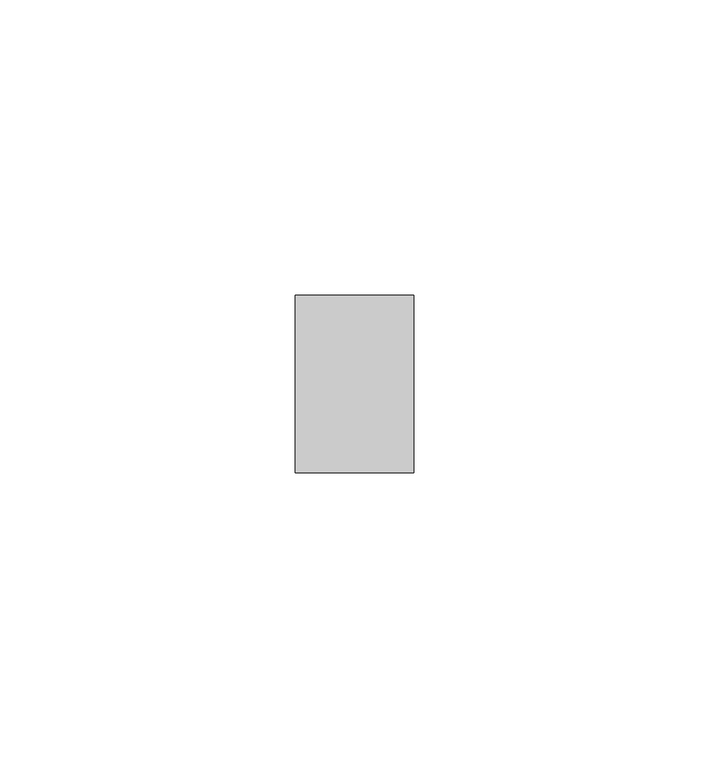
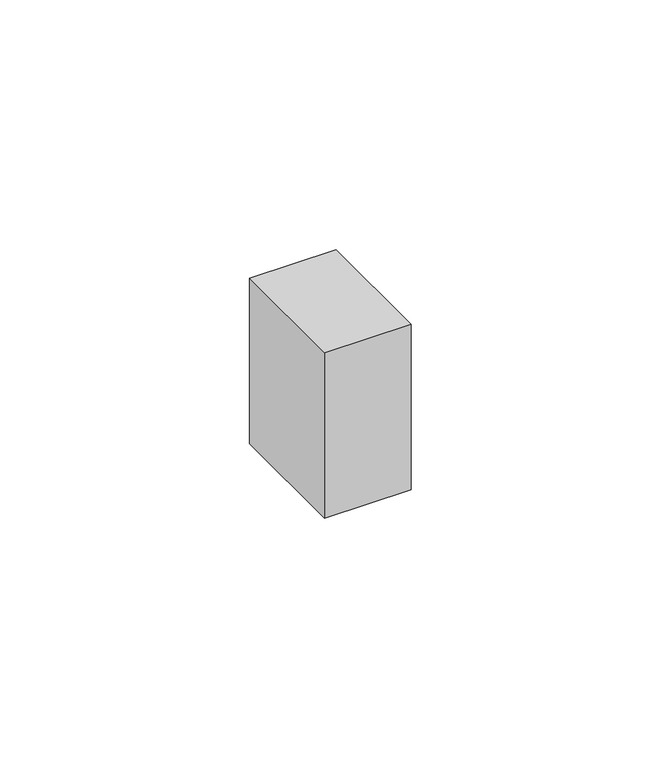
"""IFC4 building model written with IfcOpenShell, lengths in millimetres: member geometry, Прямоугольный импост : Квадрат 10 мм - Зазор между навесными плитами."""

from ifc_helpers import new_model, si_unit, frame, origin, place, context, project, spatial, polyline, outline, extrude, source, transform, mapped, element, save


def member_a5d7d56b(model_context):
    return source(origin(), model_context, "Body", "SweptSolid", [
        extrude(outline(polyline([(0.0, 15.0), (0.0, -15.0), (-20.0, -15.0), (-20.0, 15.0), (0.0, 15.0)])), frame((0.0, 0.0, -40.3806667), z_axis=(0.0, 0.0, 1.0), x_axis=(1.0, 0.0, 0.0)), (0.0, 0.0, 1.0), 40.3806667),
    ])


if __name__ == "__main__":
    model = new_model("IFC4")
    model_context = context("Model", 3, world=origin())
    ifc_project = project(units=[si_unit("LENGTHUNIT", "METRE", prefix="MILLI")], contexts=[model_context])
    site = spatial("IfcSite", under=ifc_project)
    building = spatial("IfcBuilding", under=site)
    placement = place(None, origin())
    member_shape = member_a5d7d56b(model_context)
    element("IfcMember", 1, ObjectType="Прямоугольный импост : Квадрат 10 мм - Зазор между навесными плитами", at=placement, inside=building, context=model_context, shape_type="MappedRepresentation", body=[
        mapped(member_shape, transform((0.0, 0.0, 0.0), x_axis=(1.0, 0.0, 0.0), y_axis=(0.0, 1.0, 0.0), z_axis=(0.0, 0.0, 1.0))),
    ])
    save(model, "model.ifc")
